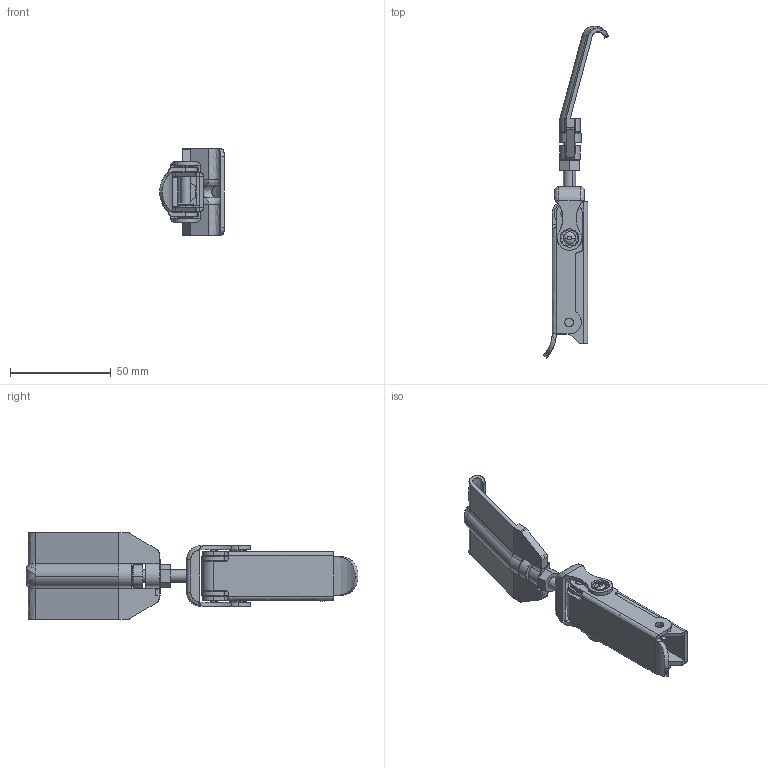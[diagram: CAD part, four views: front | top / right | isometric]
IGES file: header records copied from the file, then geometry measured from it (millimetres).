
Start section: SolidWorks IGES FILE using analytic representation for surfaces
Global section: file name: C:\Documents and Settings\lecoutey\Bureau\GR 57\GR 57 IB.IGS; native system: SolidWorks 2004 by SolidWorks Corporation; preprocessor: Version 5.3; author: lecoutey; date: 050330.132957; units: millimetre
Bounding box: 32.23 x 164.72 x 43 mm (x, y, z)
Surface area: 26448 mm2 (no closed solid volume)
Topology: 0 solids, 0 shells, 410 faces, 5378 edges, 5347 vertices
Faces by surface type: revolution 205, bspline 205
